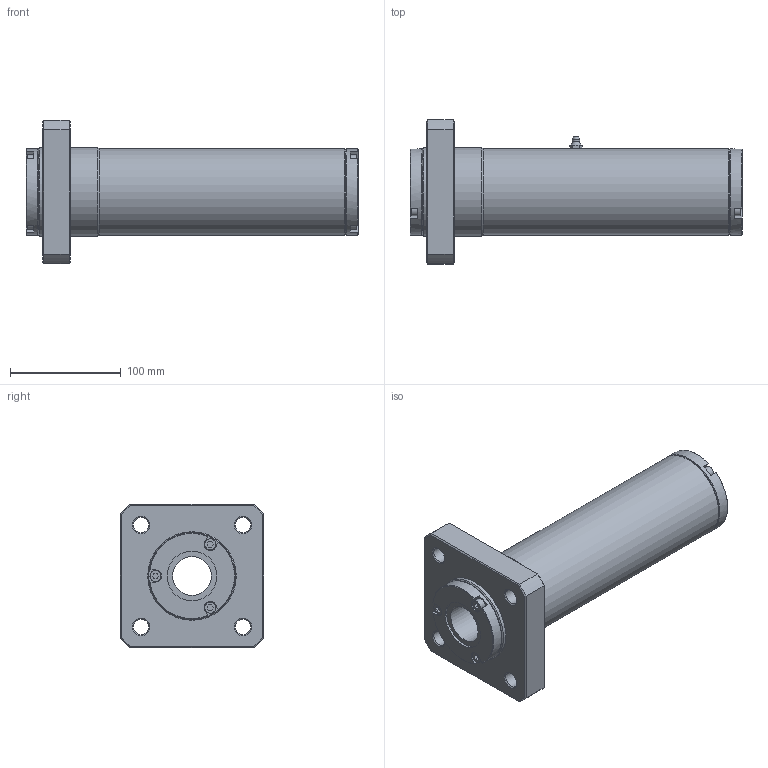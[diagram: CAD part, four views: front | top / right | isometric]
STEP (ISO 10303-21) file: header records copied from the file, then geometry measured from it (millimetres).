
FILE_DESCRIPTION(('STEP AP203'),'1');
FILE_NAME('//192.168.1.1/share/s-4 技術開発/s-4-14_個人別フォルダ/橋詰/09_CAD_DATA/3D/HP用/3Ｄモデル/LCF/LCF-C/LCF-35CVUU.step','2022-02-04T02:45:37',(' '),(' '),'Spatial InterOp 3D',' ',' ');
FILE_SCHEMA(('CONFIG_CONTROL_DESIGN'));
Length unit declared in the file: millimetre
Products named in the file (1): 1
Bounding box: 300 x 130 x 130 mm (x, y, z)
Volume: 1430332.5 mm3; surface area: 150004.2 mm2
Topology: 1 solids, 1 shells, 179 faces, 429 edges, 273 vertices
Faces by surface type: plane 101, cone 44, cylinder 31, torus 2, sphere 1
Full cylindrical faces by diameter (mm): 6.6 x1, 8.566 x2, 10 x6, 14 x4, 35 x1, 45 x2, 78 x3, 80 x2
Entity records: 5166 total; most frequent: CARTESIAN_POINT 1208, DIRECTION 796, ORIENTED_EDGE 750, EDGE_CURVE 375, AXIS2_PLACEMENT_3D 302, VERTEX_POINT 260, EDGE_LOOP 250, FACE_OUTER_BOUND 202
